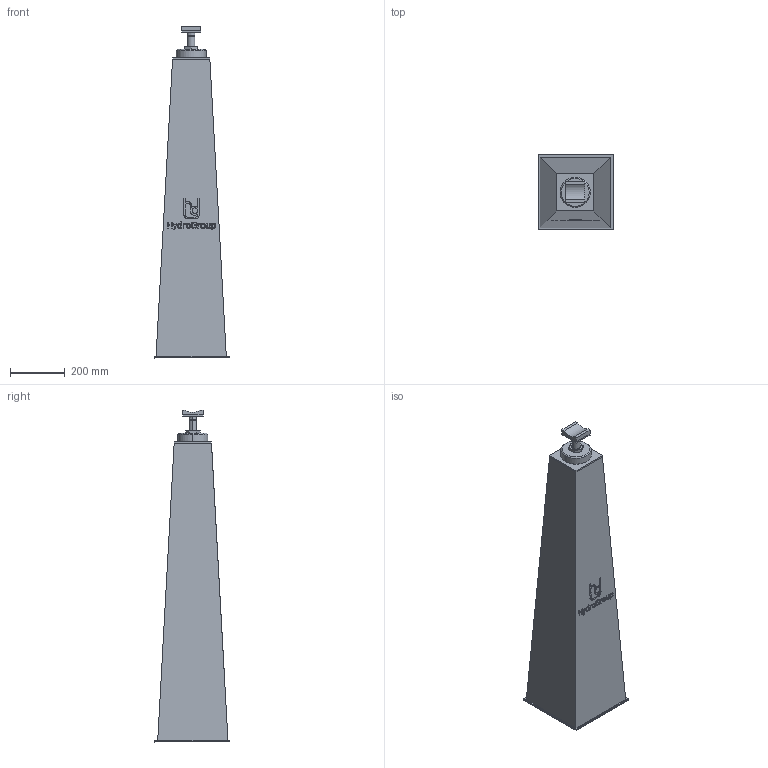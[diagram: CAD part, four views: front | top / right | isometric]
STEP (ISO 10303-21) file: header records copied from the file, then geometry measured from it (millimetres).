
FILE_DESCRIPTION(('STEP AP214'),'1');
FILE_NAME('RSRFE-IV_DN80.stp','2018-06-29T08:15:13',(' '),(' '),'Spatial InterOp 3D',' ',' ');
FILE_SCHEMA(('automotive_design'));
Length unit declared in the file: millimetre
Products named in the file (6): 1; 2; 3; 4; 5; 6
Bounding box: 270 x 270 x 1209 mm (x, y, z)
Volume: 43958016 mm3; surface area: 1188875.8 mm2
Topology: 6 solids, 6 shells, 222 faces, 547 edges, 356 vertices
Faces by surface type: plane 144, cylinder 30, extrusion 24, cone 20, torus 4
Entity records: 8932 total; most frequent: CARTESIAN_POINT 1805, ORIENTED_EDGE 1094, DIRECTION 1007, EDGE_CURVE 547, VECTOR 423, LINE 399, VERTEX_POINT 356, AXIS2_PLACEMENT_3D 292
